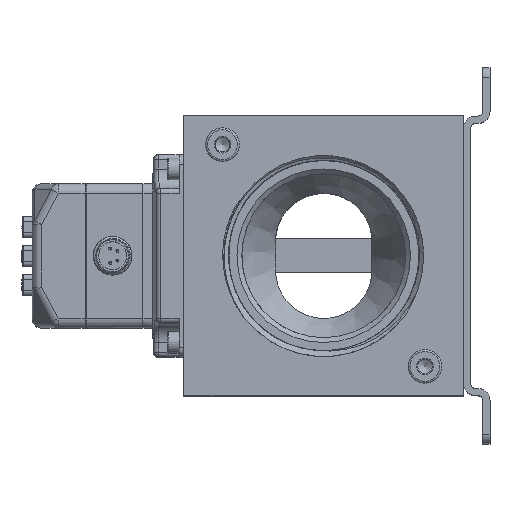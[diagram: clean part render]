
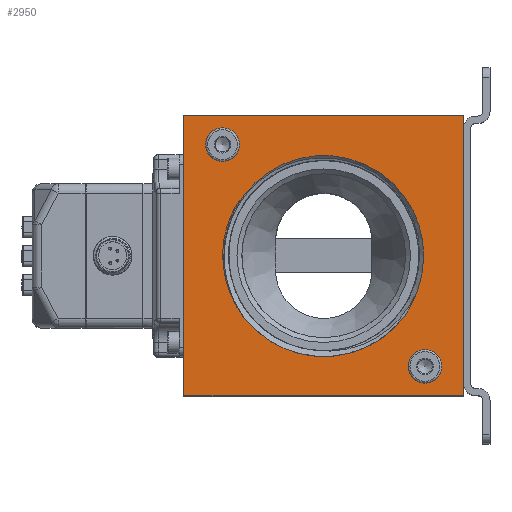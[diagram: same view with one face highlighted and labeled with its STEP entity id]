
A CAD part, top view. The second image highlights one B-rep face of the part: STEP entity #2950.
In plain terms, the highlighted planar face has unit normal (0, 0, 1).
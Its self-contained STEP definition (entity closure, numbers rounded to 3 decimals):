
#1352=PLANE('',#27100);
#2279=FACE_BOUND('',#6155,.T.);
#2280=FACE_BOUND('',#6156,.T.);
#2281=FACE_BOUND('',#6157,.T.);
#2282=FACE_BOUND('',#6158,.T.);
#2950=ADVANCED_FACE('',(#2279,#2280,#2281,#2282),#1352,.F.);
#6155=EDGE_LOOP('',(#9367));
#6156=EDGE_LOOP('',(#9368,#9369,#9370,#9371));
#6157=EDGE_LOOP('',(#9372));
#6158=EDGE_LOOP('',(#9373,#9374,#9375,#9376));
#8068=B_SPLINE_CURVE_WITH_KNOTS('',3,(#37303,#37304,#37305,#37306),
 .UNSPECIFIED.,.F.,.F.,(4,4),(0.,1.),.UNSPECIFIED.);
#8069=B_SPLINE_CURVE_WITH_KNOTS('',3,(#37311,#37312,#37313,#37314),
 .UNSPECIFIED.,.F.,.F.,(4,4),(0.,1.),.UNSPECIFIED.);
#8405=CIRCLE('',#27096,3.5);
#8406=CIRCLE('',#27097,3.5);
#8407=CIRCLE('',#27098,20.75);
#8408=CIRCLE('',#27099,20.955);
#9367=ORIENTED_EDGE('',*,*,#18940,.T.);
#9368=ORIENTED_EDGE('',*,*,#18941,.F.);
#9369=ORIENTED_EDGE('',*,*,#18942,.F.);
#9370=ORIENTED_EDGE('',*,*,#18943,.F.);
#9371=ORIENTED_EDGE('',*,*,#18944,.F.);
#9372=ORIENTED_EDGE('',*,*,#18945,.T.);
#9373=ORIENTED_EDGE('',*,*,#18946,.F.);
#9374=ORIENTED_EDGE('',*,*,#18947,.T.);
#9375=ORIENTED_EDGE('',*,*,#18948,.F.);
#9376=ORIENTED_EDGE('',*,*,#18949,.F.);
#16553=VERTEX_POINT('',#37292);
#16554=VERTEX_POINT('',#37294);
#16555=VERTEX_POINT('',#37295);
#16556=VERTEX_POINT('',#37297);
#16557=VERTEX_POINT('',#37299);
#16558=VERTEX_POINT('',#37302);
#16559=VERTEX_POINT('',#37307);
#16560=VERTEX_POINT('',#37308);
#16561=VERTEX_POINT('',#37310);
#16562=VERTEX_POINT('',#37315);
#18940=EDGE_CURVE('',#16553,#16553,#8405,.T.);
#18941=EDGE_CURVE('',#16554,#16555,#22529,.T.);
#18942=EDGE_CURVE('',#16556,#16554,#22530,.T.);
#18943=EDGE_CURVE('',#16557,#16556,#22531,.T.);
#18944=EDGE_CURVE('',#16555,#16557,#22532,.T.);
#18945=EDGE_CURVE('',#16558,#16558,#8406,.T.);
#18946=EDGE_CURVE('',#16559,#16560,#8068,.T.);
#18947=EDGE_CURVE('',#16559,#16561,#8407,.T.);
#18948=EDGE_CURVE('',#16562,#16561,#8069,.T.);
#18949=EDGE_CURVE('',#16560,#16562,#8408,.T.);
#22529=LINE('',#37293,#24803);
#22530=LINE('',#37296,#24804);
#22531=LINE('',#37298,#24805);
#22532=LINE('',#37300,#24806);
#24803=VECTOR('',#29628,1.);
#24804=VECTOR('',#29629,1.);
#24805=VECTOR('',#29630,1.);
#24806=VECTOR('',#29631,1.);
#27096=AXIS2_PLACEMENT_3D('',#37291,#29626,#29627);
#27097=AXIS2_PLACEMENT_3D('',#37301,#29632,#29633);
#27098=AXIS2_PLACEMENT_3D('',#37309,#29634,#29635);
#27099=AXIS2_PLACEMENT_3D('',#37316,#29636,#29637);
#27100=AXIS2_PLACEMENT_3D('',#37317,#29638,#29639);
#29626=DIRECTION('',(0.,0.,-1.));
#29627=DIRECTION('',(-1.,0.,0.));
#29628=DIRECTION('',(-1.,0.,0.));
#29629=DIRECTION('',(0.,-1.,0.));
#29630=DIRECTION('',(1.,0.,0.));
#29631=DIRECTION('',(0.,1.,0.));
#29632=DIRECTION('',(0.,0.,-1.));
#29633=DIRECTION('',(-1.,0.,0.));
#29634=DIRECTION('',(0.,0.,-1.));
#29635=DIRECTION('',(-1.,0.,0.));
#29636=DIRECTION('',(0.,0.,1.));
#29637=DIRECTION('',(-1.,0.,0.));
#29638=DIRECTION('',(0.,0.,-1.));
#29639=DIRECTION('',(-1.,0.,0.));
#37291=CARTESIAN_POINT('',(50.5,4.5,14.));
#37292=CARTESIAN_POINT('',(47.,4.5,14.));
#37293=CARTESIAN_POINT('',(29.5,-1.5,14.));
#37294=CARTESIAN_POINT('',(58.5,-1.5,14.));
#37295=CARTESIAN_POINT('',(0.5,-1.5,14.));
#37296=CARTESIAN_POINT('',(58.5,27.5,14.));
#37297=CARTESIAN_POINT('',(58.5,56.5,14.));
#37298=CARTESIAN_POINT('',(29.5,56.5,14.));
#37299=CARTESIAN_POINT('',(0.5,56.5,14.));
#37300=CARTESIAN_POINT('',(0.5,27.5,14.));
#37301=CARTESIAN_POINT('',(8.5,50.5,14.));
#37302=CARTESIAN_POINT('',(5.,50.5,14.));
#37303=CARTESIAN_POINT('',(10.117,20.092,14.));
#37304=CARTESIAN_POINT('',(10.781,18.161,14.));
#37305=CARTESIAN_POINT('',(11.712,16.367,14.));
#37306=CARTESIAN_POINT('',(12.904,14.707,14.));
#37307=CARTESIAN_POINT('',(10.117,20.092,14.));
#37308=CARTESIAN_POINT('',(12.904,14.707,14.));
#37309=CARTESIAN_POINT('',(29.5,27.5,14.));
#37310=CARTESIAN_POINT('',(48.883,20.092,14.));
#37311=CARTESIAN_POINT('',(46.096,14.707,14.));
#37312=CARTESIAN_POINT('',(47.284,16.36,14.));
#37313=CARTESIAN_POINT('',(48.229,18.189,14.));
#37314=CARTESIAN_POINT('',(48.883,20.092,14.));
#37315=CARTESIAN_POINT('',(46.096,14.707,14.));
#37316=CARTESIAN_POINT('',(29.5,27.5,14.));
#37317=CARTESIAN_POINT('',(29.5,27.5,14.));
